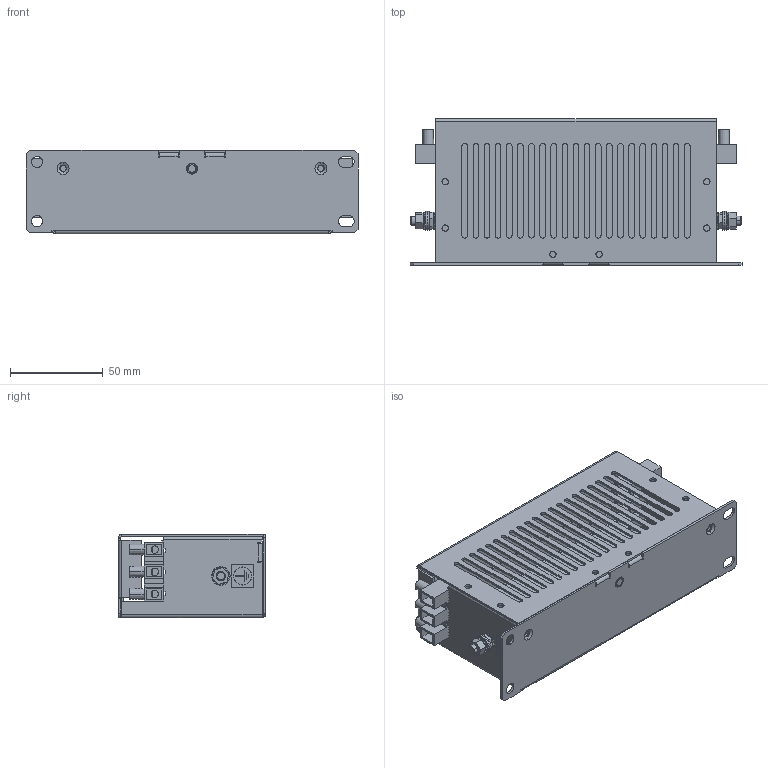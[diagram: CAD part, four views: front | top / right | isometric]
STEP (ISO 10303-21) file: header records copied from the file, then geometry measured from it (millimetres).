
FILE_DESCRIPTION (( 'STEP AP214' ), '1' );
FILE_NAME ('KMF306-10.STEP', '2015-01-20T16:00:25', ( '' ), ( '' ), 'SwSTEP 2.0', 'SolidWorks 2014', '' );
FILE_SCHEMA (( 'AUTOMOTIVE_DESIGN' ));
Length unit declared in the file: millimetre
Products named in the file (16): WSH118; WSH112; PEM FH-M5-15 ZI--C_PEM FH-M5-15 ZI--C; TAG165; LBL47; BOX825A; BOX825B; TER693.; PEM FH4-M5-15 ---N_PEM FH4-M5-15 ---N; BOX825A-B_LID; FH-M4-10 ZI; KMF306-10; NUT52; NUT53; NUT43; WSH121
Assembly tree (25 placements, depth 3):
  KMF306-10
    NUT52  x2
    NUT53  x2
    NUT43
    WSH121  x4
    WSH118  x4
    WSH112
    PEM FH-M5-15 ZI--C_PEM FH-M5-15 ZI--C
    TAG165
    LBL47
    BOX825A-B_LID
      BOX825A
      BOX825B
      TER693.  x2
      PEM FH4-M5-15 ---N_PEM FH4-M5-15 ---N  x2
      FH-M4-10 ZI
Bounding box: 179 x 79 x 45 mm (x, y, z)
Volume: 62194.4 mm3; surface area: 106480.8 mm2
Topology: 25 solids, 25 shells, 1461 faces, 4009 edges, 2617 vertices
Faces by surface type: plane 1020, cylinder 344, cone 81, torus 10, bspline 6
Entity records: 31441 total; most frequent: CARTESIAN_POINT 5722, ORIENTED_EDGE 5084, DIRECTION 5034, EDGE_CURVE 2542, LINE 1800, VECTOR 1800, VERTEX_POINT 1645, AXIS2_PLACEMENT_3D 1617
